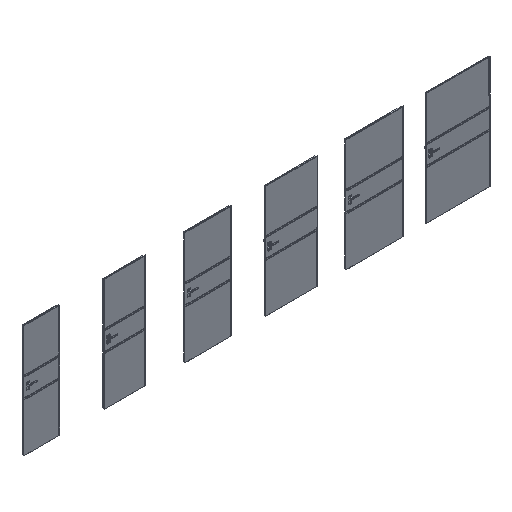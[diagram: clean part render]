
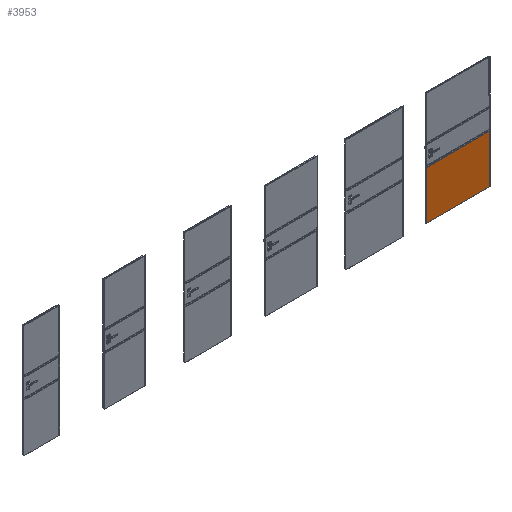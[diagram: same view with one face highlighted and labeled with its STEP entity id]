
A CAD part, isometric view. The second image highlights one B-rep face of the part: STEP entity #3953.
In plain terms, the highlighted planar face has unit normal (0, -1, 0).
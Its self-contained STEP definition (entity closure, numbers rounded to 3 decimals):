
#3953=ADVANCED_FACE('',(#6005),#4737,.F.);
#4737=PLANE('',#26566);
#6005=FACE_OUTER_BOUND('',#7517,.T.);
#7517=EDGE_LOOP('',(#13642,#13643,#13644,#13645));
#13642=ORIENTED_EDGE('',*,*,#19904,.F.);
#13643=ORIENTED_EDGE('',*,*,#19905,.T.);
#13644=ORIENTED_EDGE('',*,*,#19906,.T.);
#13645=ORIENTED_EDGE('',*,*,#19907,.F.);
#16614=VERTEX_POINT('',#46764);
#16615=VERTEX_POINT('',#46765);
#16616=VERTEX_POINT('',#46767);
#16617=VERTEX_POINT('',#46769);
#19904=EDGE_CURVE('',#16614,#16615,#22200,.T.);
#19905=EDGE_CURVE('',#16614,#16616,#22201,.T.);
#19906=EDGE_CURVE('',#16616,#16617,#22202,.T.);
#19907=EDGE_CURVE('',#16615,#16617,#22203,.T.);
#22200=LINE('',#46763,#24252);
#22201=LINE('',#46766,#24253);
#22202=LINE('',#46768,#24254);
#22203=LINE('',#46770,#24255);
#24252=VECTOR('',#32649,1.);
#24253=VECTOR('',#32650,1.);
#24254=VECTOR('',#32651,1.);
#24255=VECTOR('',#32652,1.);
#26566=AXIS2_PLACEMENT_3D('',#46771,#32653,#32654);
#32649=DIRECTION('',(1.,0.,0.));
#32650=DIRECTION('',(0.,0.,-1.));
#32651=DIRECTION('',(1.,0.,0.));
#32652=DIRECTION('',(0.,0.,-1.));
#32653=DIRECTION('',(0.,1.,0.));
#32654=DIRECTION('',(-1.,0.,0.));
#46763=CARTESIAN_POINT('',(6928.,-39.3,868.85));
#46764=CARTESIAN_POINT('',(6928.,-39.3,868.85));
#46765=CARTESIAN_POINT('',(8072.,-39.3,868.85));
#46766=CARTESIAN_POINT('',(6928.,-39.3,2030.));
#46767=CARTESIAN_POINT('',(6928.,-39.3,2.));
#46768=CARTESIAN_POINT('',(7178.,-39.3,2.));
#46769=CARTESIAN_POINT('',(8072.,-39.3,2.));
#46770=CARTESIAN_POINT('',(8072.,-39.3,2030.));
#46771=CARTESIAN_POINT('',(7178.,-39.3,2030.));
